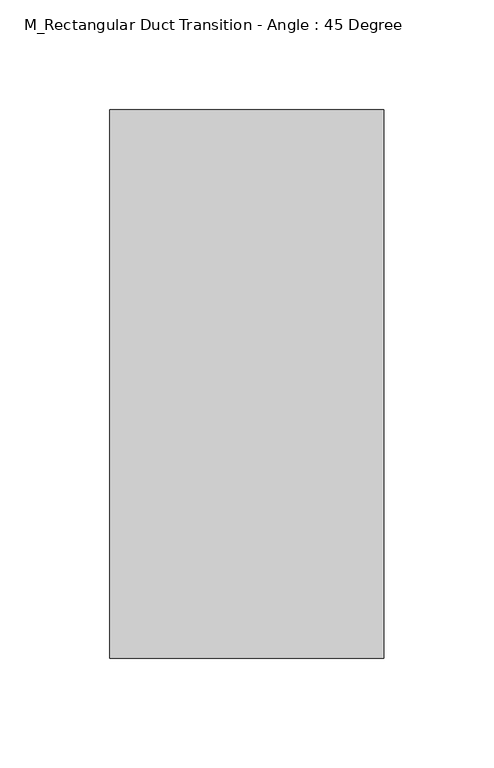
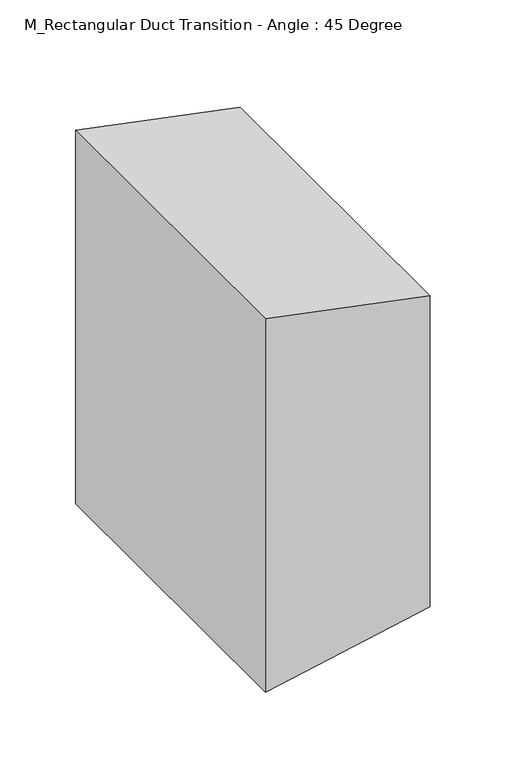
"""IFC4 building model written with IfcOpenShell, lengths in millimetres: duct fitting geometry, M_Rectangular Duct Transition - Angle : 45 Degree."""

from ifc_helpers import new_model, si_unit, frame, origin, place, context, project, spatial, polyline, outline, extrude, source, transform, mapped, element, save


def m_rectangular_duct_transition_angle_45_degree_accd9fbd(model_context):
    return source(origin(), model_context, "Body", "SweptSolid", [
        extrude(outline(polyline([(-150.0, 0.0), (150.0, 0.0), (125.0, -125.0), (-125.0, -125.0), (-150.0, 0.0)])), frame((0.0, -125.0, 0.0), z_axis=(-1.611306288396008e-12, 1.0, 0.0), x_axis=(0.0, 0.0, -1.0)), (0.0, 0.0, 1.0), 250.0),
        extrude(outline(polyline([(150.0, 0.0), (-150.0, 0.0), (-125.0, 125.0), (125.0, 125.0), (150.0, 0.0)])), frame((0.0, -125.0, 0.0), z_axis=(0.0, 1.0, 0.0), x_axis=(0.0, 0.0, 1.0)), (0.0, 0.0, 1.0), 250.0),
        extrude(outline(polyline([(150.0, 0.0), (-150.0, 0.0), (-125.0, 125.0), (125.0, 125.0), (150.0, 0.0)])), frame((0.0, -125.0, 0.0), z_axis=(0.0, 1.0, 0.0), x_axis=(0.0, 0.0, 1.0)), (0.0, 0.0, 1.0), 250.0),
    ])


if __name__ == "__main__":
    model = new_model("IFC4")
    model_context = context("Model", 3, world=origin())
    ifc_project = project(units=[si_unit("LENGTHUNIT", "METRE", prefix="MILLI")], contexts=[model_context])
    site = spatial("IfcSite", under=ifc_project)
    building = spatial("IfcBuilding", under=site)
    placement = place(None, origin())
    m_rectangular_duct_transition_angle_45_degree_shape = m_rectangular_duct_transition_angle_45_degree_accd9fbd(model_context)
    element("IfcDuctFitting", 1, ObjectType="M_Rectangular Duct Transition - Angle : 45 Degree", at=placement, inside=building, context=model_context, shape_type="MappedRepresentation", body=[
        mapped(m_rectangular_duct_transition_angle_45_degree_shape, transform((0.0, 0.0, 0.0), x_axis=(1.0, 0.0, 0.0), y_axis=(0.0, 1.0, 0.0), z_axis=(0.0, 0.0, 1.0))),
    ])
    save(model, "model.ifc")
